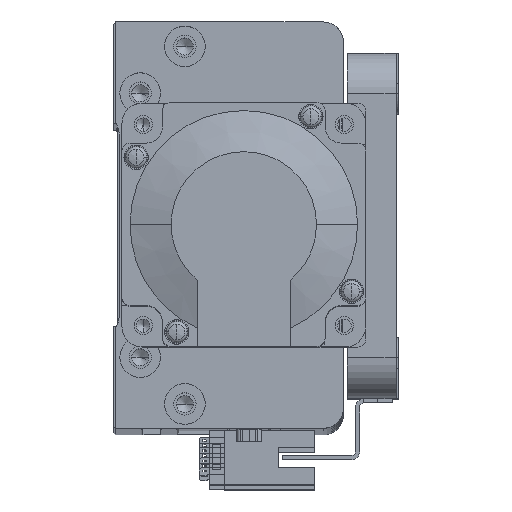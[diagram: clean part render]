
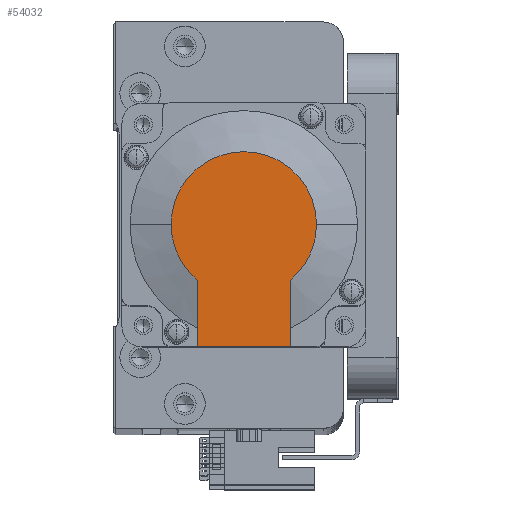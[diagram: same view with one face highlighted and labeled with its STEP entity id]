
A CAD part, top view. The second image highlights one B-rep face of the part: STEP entity #54032.
In plain terms, the highlighted planar face has unit normal (0, 0, 1) as drawn and (-1, 0, 0) by its records, which use the part's own axes.
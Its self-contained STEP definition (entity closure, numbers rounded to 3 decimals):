
#2413 = VERTEX_POINT ( 'NONE', #6741 ) ;
#2799 = CARTESIAN_POINT ( 'NONE',  ( -118.5, 0., 0. ) ) ;
#2818 = DIRECTION ( 'NONE',  ( -1., 0., 0. ) ) ;
#4719 = CARTESIAN_POINT ( 'NONE',  ( -118.5, -8.941, -11.45 ) ) ;
#5852 = DIRECTION ( 'NONE',  ( 0., 0., 1. ) ) ;
#5938 = CARTESIAN_POINT ( 'NONE',  ( -118.5, 0., 17.881 ) ) ;
#6448 = CARTESIAN_POINT ( 'NONE',  ( -118.5, 13.735, -11.45 ) ) ;
#6741 = CARTESIAN_POINT ( 'NONE',  ( -118.5, 30., -11.45 ) ) ;
#7132 = DIRECTION ( 'NONE',  ( 0., 0., -1. ) ) ;
#8489 = EDGE_CURVE ( 'NONE', #25186, #30360, #47378, .T. ) ;
#8726 = AXIS2_PLACEMENT_3D ( 'NONE', #28822, #2818, #33180 ) ;
#8832 = DIRECTION ( 'NONE',  ( 0., -1., 0. ) ) ;
#10389 = LINE ( 'NONE', #4719, #30787 ) ;
#10959 = ORIENTED_EDGE ( 'NONE', *, *, #8489, .F. ) ;
#11122 = PLANE ( 'NONE',  #8726 ) ;
#13627 = CARTESIAN_POINT ( 'NONE',  ( -118.5, 30., 11.45 ) ) ;
#14023 = VECTOR ( 'NONE', #43448, 1000. ) ;
#14743 = VERTEX_POINT ( 'NONE', #5938 ) ;
#15101 = EDGE_LOOP ( 'NONE', ( #43545, #56104, #16750, #16740, #10959, #51981 ) ) ;
#16740 = ORIENTED_EDGE ( 'NONE', *, *, #37488, .T. ) ;
#16750 = ORIENTED_EDGE ( 'NONE', *, *, #21272, .T. ) ;
#21272 = EDGE_CURVE ( 'NONE', #29269, #14743, #52047, .T. ) ;
#22036 = EDGE_CURVE ( 'NONE', #2413, #25186, #47720, .T. ) ;
#22373 = CARTESIAN_POINT ( 'NONE',  ( -118.5, 0., 0. ) ) ;
#22625 = CARTESIAN_POINT ( 'NONE',  ( -118.5, 0., 0. ) ) ;
#25186 = VERTEX_POINT ( 'NONE', #13627 ) ;
#26777 = DIRECTION ( 'NONE',  ( 0., 0., -1. ) ) ;
#27023 = DIRECTION ( 'NONE',  ( 0., 0., -1. ) ) ;
#28547 = AXIS2_PLACEMENT_3D ( 'NONE', #2799, #33155, #7132 ) ;
#28822 = CARTESIAN_POINT ( 'NONE',  ( -118.5, -8.941, 0. ) ) ;
#29269 = VERTEX_POINT ( 'NONE', #49668 ) ;
#29423 = FACE_OUTER_BOUND ( 'NONE', #15101, .T. ) ;
#30360 = VERTEX_POINT ( 'NONE', #40281 ) ;
#30787 = VECTOR ( 'NONE', #8832, 1000. ) ;
#33155 = DIRECTION ( 'NONE',  ( -1., 0., 0. ) ) ;
#33180 = DIRECTION ( 'NONE',  ( 0., 0., 1. ) ) ;
#34673 = CARTESIAN_POINT ( 'NONE',  ( -118.5, 0., 11.45 ) ) ;
#35888 = VERTEX_POINT ( 'NONE', #6448 ) ;
#36598 = CARTESIAN_POINT ( 'NONE',  ( -118.5, 30., 25. ) ) ;
#36736 = EDGE_CURVE ( 'NONE', #2413, #35888, #10389, .T. ) ;
#37488 = EDGE_CURVE ( 'NONE', #14743, #30360, #49011, .T. ) ;
#40281 = CARTESIAN_POINT ( 'NONE',  ( -118.5, 13.735, 11.45 ) ) ;
#42869 = AXIS2_PLACEMENT_3D ( 'NONE', #22373, #52878, #26777 ) ;
#43448 = DIRECTION ( 'NONE',  ( 0., -1., 0. ) ) ;
#43545 = ORIENTED_EDGE ( 'NONE', *, *, #36736, .T. ) ;
#45245 = EDGE_CURVE ( 'NONE', #35888, #29269, #48068, .T. ) ;
#45650 = AXIS2_PLACEMENT_3D ( 'NONE', #22625, #53101, #27023 ) ;
#47378 = LINE ( 'NONE', #34673, #14023 ) ;
#47720 = LINE ( 'NONE', #36598, #49109 ) ;
#48068 = CIRCLE ( 'NONE', #28547, 17.881 ) ;
#49011 = CIRCLE ( 'NONE', #45650, 17.881 ) ;
#49109 = VECTOR ( 'NONE', #5852, 1000. ) ;
#49668 = CARTESIAN_POINT ( 'NONE',  ( -118.5, 0., -17.881 ) ) ;
#51981 = ORIENTED_EDGE ( 'NONE', *, *, #22036, .F. ) ;
#52047 = CIRCLE ( 'NONE', #42869, 17.881 ) ;
#52878 = DIRECTION ( 'NONE',  ( -1., 0., 0. ) ) ;
#53101 = DIRECTION ( 'NONE',  ( -1., 0., 0. ) ) ;
#54032 = ADVANCED_FACE ( 'NONE', ( #29423 ), #11122, .T. ) ;
#56104 = ORIENTED_EDGE ( 'NONE', *, *, #45245, .T. ) ;
